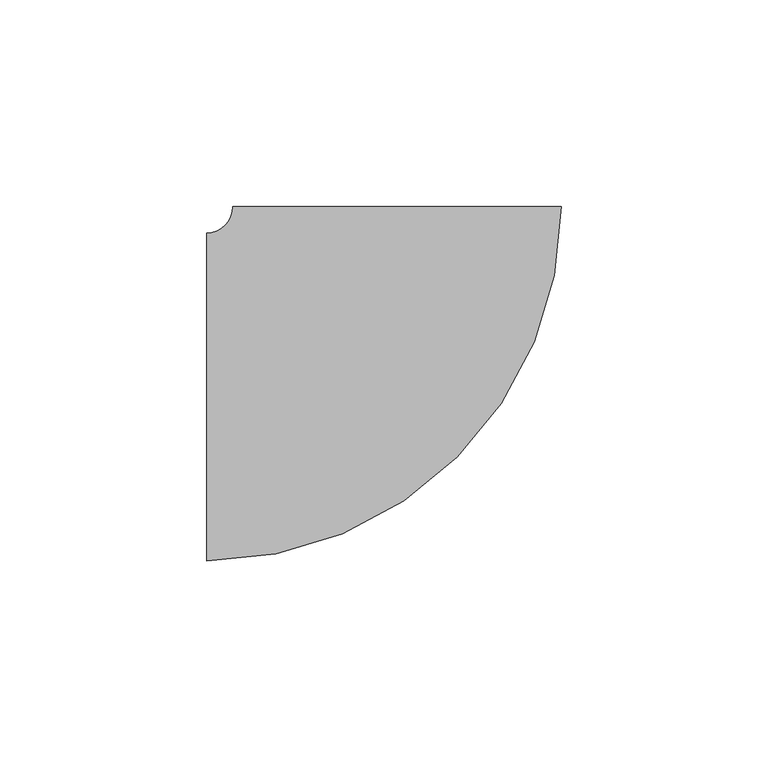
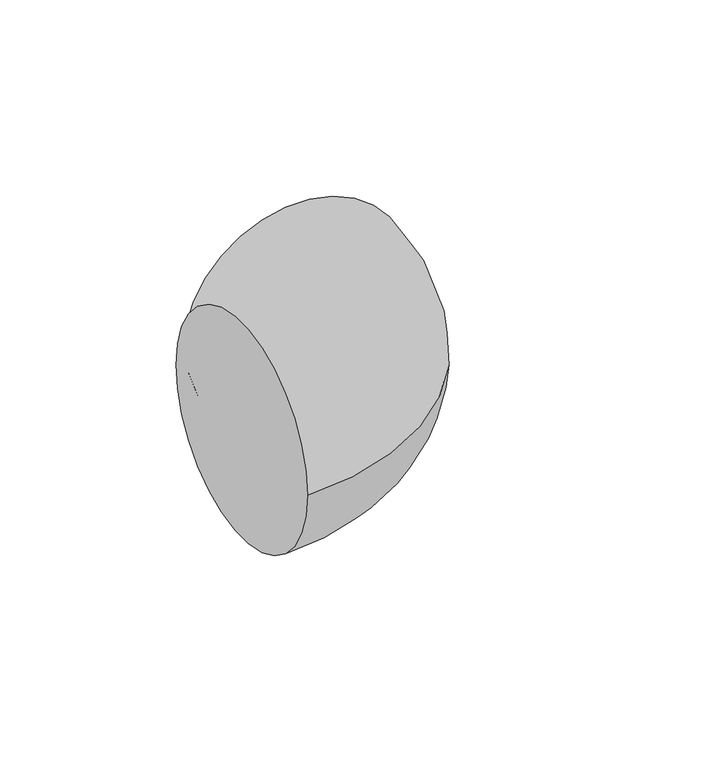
"""IFC4 building model written with IfcOpenShell, lengths in millimetres: pipe fitting geometry, M_Codo - Genérico : Estándar."""

import ifcopenshell
import ifcopenshell.guid

model = None  # the IFC model being written
_history = None  # IfcOwnerHistory: only IFC2X3 demands one
_inside = {}  # id of a spatial element -> (the spatial element, [elements in it])
_under = {}  # id of a project, library or spatial element -> (it, [spatial elements below it])
_declared = {}  # id of a project -> (the project, [libraries it declares])
_typed = {}  # id of a type object -> (the type object, [elements of that type])
_made_of = {}  # id of a material, layer set ... -> (it, [elements and type objects made of it])


def new_model(schema):
    """Start an empty IFC model of exactly this schema.

    Asked for "IFC4X3", IfcOpenShell would pick the latest addendum, in which some entities
    have other attributes; the version numbers below select the first issue.
    IFC2X3 requires an IfcOwnerHistory on every rooted entity: one is made here for all.
    """
    global model, _history
    if schema == "IFC4X3":
        model = ifcopenshell.file(schema_version=(4, 3, 0, 0))
    else:
        model = ifcopenshell.file(schema=schema)
    _inside.clear()
    _under.clear()
    _declared.clear()
    _typed.clear()
    _made_of.clear()
    _history = None
    if model.schema == "IFC2X3":
        org = make("IfcOrganization", Name="unknown")
        user = make(
            "IfcPersonAndOrganization",
            ThePerson=make("IfcPerson", FamilyName="unknown"),
            TheOrganization=org,
        )
        app = make(
            "IfcApplication",
            ApplicationDeveloper=org,
            Version="unknown",
            ApplicationFullName="unknown",
            ApplicationIdentifier="unknown",
        )
        _history = make(
            "IfcOwnerHistory",
            OwningUser=user,
            OwningApplication=app,
            ChangeAction="ADDED",
            CreationDate=0,
        )
    return model


def make(cls, **values):
    """One entity of the class cls with the attributes given. An attribute that is None is left unset."""
    return model.create_entity(
        cls, **{name: value for name, value in values.items() if value is not None}
    )


def rooted(cls, **values):
    """An entity with a GlobalId (a new one), such as an element, a storey or a relation."""
    return make(cls, GlobalId=ifcopenshell.guid.new(), OwnerHistory=_history, **values)


def si_unit(unit_type, name, prefix=None):
    """IfcSIUnit, for example si_unit("LENGTHUNIT", "METRE", prefix="MILLI")."""
    return make("IfcSIUnit", UnitType=unit_type, Prefix=prefix, Name=name)


def assignment(units):
    """IfcUnitAssignment: the units of a project."""
    return None if units is None else make("IfcUnitAssignment", Units=units)


def point(xyz):
    """IfcCartesianPoint."""
    return None if xyz is None else make("IfcCartesianPoint", Coordinates=xyz)


def direction(xyz):
    """IfcDirection."""
    return None if xyz is None else make("IfcDirection", DirectionRatios=xyz)


def frame(location, z_axis=None, x_axis=None):
    """IfcAxis2Placement3D, a coordinate frame: its origin and axes. An axis left out is left unset."""
    return make(
        "IfcAxis2Placement3D",
        Location=point(location),
        Axis=direction(z_axis),
        RefDirection=direction(x_axis),
    )


def origin():
    """The frame at (0, 0, 0) with its axes left unset."""
    return frame((0.0, 0.0, 0.0))


def place(relative_to, where):
    """IfcLocalPlacement: puts the frame where relative to a parent placement (None: the world)."""
    return make(
        "IfcLocalPlacement", PlacementRelTo=relative_to, RelativePlacement=where
    )


def context(
    kind, dimensions, precision=None, world=None, true_north=None, identifier=None
):
    """IfcGeometricRepresentationContext, for example the 3D "Model" context."""
    return make(
        "IfcGeometricRepresentationContext",
        ContextIdentifier=identifier,
        ContextType=kind,
        CoordinateSpaceDimension=dimensions,
        Precision=precision,
        WorldCoordinateSystem=world,
        TrueNorth=true_north,
    )


def project(units=None, contexts=None):
    """IfcProject with its units and contexts."""
    return rooted(
        "IfcProject",
        Name="project",
        RepresentationContexts=contexts,
        UnitsInContext=assignment(units),
    )


def spatial(cls, under=None, at=None, **own):
    """A site, building, storey or space (cls), placed at a placement, below another one or the project."""
    s = rooted(cls, ObjectPlacement=at, **own)
    if under is not None:
        _under.setdefault(under.id(), (under, []))[1].append(s)
    return s


def circle_curve(where, radius):
    """IfcCircle in the frame where."""
    return make("IfcCircle", Position=where, Radius=radius)


def ellipse_curve(where, semi_axis1, semi_axis2):
    """IfcEllipse in the frame where."""
    return make(
        "IfcEllipse", Position=where, SemiAxis1=semi_axis1, SemiAxis2=semi_axis2
    )


def trimmed(basis, trim1, trim2, sense, master):
    """IfcTrimmedCurve: the piece of a basis curve between two trims."""
    return make(
        "IfcTrimmedCurve",
        BasisCurve=basis,
        Trim1=trim1,
        Trim2=trim2,
        SenseAgreement=sense,
        MasterRepresentation=master,
    )


def shape(context_of_items, identifier, shape_type, items):
    """IfcShapeRepresentation: the items that make up one representation, for example the "Body"."""
    return make(
        "IfcShapeRepresentation",
        ContextOfItems=context_of_items,
        RepresentationIdentifier=identifier,
        RepresentationType=shape_type,
        Items=items,
    )


def source(mapping_origin, context_of_items, identifier, shape_type, items):
    """IfcRepresentationMap: a shape defined once, which mapped items show again and again."""
    return make(
        "IfcRepresentationMap",
        MappingOrigin=mapping_origin,
        MappedRepresentation=shape(context_of_items, identifier, shape_type, items),
    )


def transform(
    local_origin,
    x_axis=None,
    y_axis=None,
    z_axis=None,
    scale=None,
    scale2=None,
    scale3=None,
    uniform=True,
):
    """IfcCartesianTransformationOperator3D, or its non-uniform kind. x_axis, y_axis, z_axis: its Axis1, 2, 3."""
    if uniform:
        return make(
            "IfcCartesianTransformationOperator3D",
            Axis1=direction(x_axis),
            Axis2=direction(y_axis),
            LocalOrigin=point(local_origin),
            Scale=scale,
            Axis3=direction(z_axis),
        )
    return make(
        "IfcCartesianTransformationOperator3DnonUniform",
        Axis1=direction(x_axis),
        Axis2=direction(y_axis),
        LocalOrigin=point(local_origin),
        Scale=scale,
        Axis3=direction(z_axis),
        Scale2=scale2,
        Scale3=scale3,
    )


def mapped(mapping_source, mapping_target):
    """IfcMappedItem: shows the shape of a source again, moved by a transform."""
    return make(
        "IfcMappedItem", MappingSource=mapping_source, MappingTarget=mapping_target
    )


def made_of(thing, what):
    """Note that an element or type object is made of a material, layer set ...; save() writes the relation."""
    if what is not None:
        _made_of.setdefault(what.id(), (what, []))[1].append(thing)
    return thing


def element(
    cls,
    number,
    at=None,
    inside=None,
    cuts=None,
    type_object=None,
    material=None,
    context=None,
    identifier="Body",
    shape_type=None,
    held_by="IfcProductDefinitionShape",
    body=None,
    shapes=None,
    **own,
):
    """One element of the class cls, such as IfcWall. Its Tag is "e" and its number.

    at: its placement. inside: the storey or other place that contains it. cuts: it is an
    opening in that element (IfcRelVoidsElement). A single representation is given by context,
    identifier, shape_type and body (its items); several are given by shapes. held_by: the class
    of the entity that holds the representations. save() writes the other relations.
    """
    e = rooted(cls, Tag="e%d" % number, ObjectPlacement=at, **own)
    if body is not None:
        shapes = [shape(context, identifier, shape_type, body)]
    if shapes is not None:
        e.Representation = make(held_by, Representations=shapes)
    if inside is not None:
        _inside.setdefault(inside.id(), (inside, []))[1].append(e)
    if cuts is not None:
        rooted(
            "IfcRelVoidsElement", RelatingBuildingElement=cuts, RelatedOpeningElement=e
        )
    if type_object is not None:
        _typed.setdefault(type_object.id(), (type_object, []))[1].append(e)
    return made_of(e, material)


def aggregate(whole, parts):
    """IfcRelAggregates: a whole, such as a stair, and the parts it consists of."""
    return rooted("IfcRelAggregates", RelatingObject=whole, RelatedObjects=parts)


def save(model, path):
    """Write the relations noted so far, then the file.

    IfcRelAggregates (storeys below a building ...), IfcRelContainedInSpatialStructure (elements
    in a storey), IfcRelDefinesByType, IfcRelAssociatesMaterial and IfcRelDeclares: one each for
    every whole, place, type object, material and project.
    """
    for whole, parts in _under.values():
        aggregate(whole, parts)
    for where, things in _inside.values():
        rooted(
            "IfcRelContainedInSpatialStructure",
            RelatedElements=things,
            RelatingStructure=where,
        )
    for kind, things in _typed.values():
        rooted("IfcRelDefinesByType", RelatedObjects=things, RelatingType=kind)
    for what, things in _made_of.values():
        rooted("IfcRelAssociatesMaterial", RelatedObjects=things, RelatingMaterial=what)
    for by, libraries in _declared.values():
        rooted("IfcRelDeclares", RelatingContext=by, RelatedDefinitions=libraries)
    model.write(path)


def plane_surface(at):
    """IfcPlane: the flat surface through the origin of the frame at, square to its z axis."""
    return make("IfcPlane", Position=at)


def revolved_surface(curve, axis_point, axis_direction):
    """IfcSurfaceOfRevolution: the curve turned about the line through axis_point along axis_direction."""
    return make(
        "IfcSurfaceOfRevolution",
        SweptCurve=make("IfcArbitraryOpenProfileDef", ProfileType="CURVE", Curve=curve),
        AxisPosition=make("IfcAxis1Placement", Location=point(axis_point), Axis=direction(axis_direction)),
    )


def advanced_brep(points, edges, surfaces, faces):
    """IfcAdvancedBrep: a solid bounded by faces that lie on surfaces and meet in shared edges.

    An edge is (start, end): straight between two places in points (the first is 0);
    or (start, end, curve); or (start, end, curve, False) where it runs against its curve.
    A face is (place in surfaces, loops), or (place, loops, False) where it looks against
    its surface's normal. A loop lists edges by number (the first is 1), with a minus sign
    where the edge is run from its end to its start. The first loop is the outer one.
    """
    corners = [point(p) for p in points]
    vertices = [make("IfcVertexPoint", VertexGeometry=c) for c in corners]
    made = []
    for start, end, *more in edges:
        made.append(
            make(
                "IfcEdgeCurve",
                EdgeStart=vertices[start],
                EdgeEnd=vertices[end],
                EdgeGeometry=more[0] if more else make("IfcPolyline", Points=[corners[start], corners[end]]),
                SameSense=more[1] if len(more) > 1 else True,
            )
        )
    hull = []
    for where, loops, *sense in faces:
        bounds = []
        for j, loop in enumerate(loops):
            ring = [make("IfcOrientedEdge", EdgeElement=made[abs(k) - 1], Orientation=k > 0) for k in loop]
            bounds.append(
                make(
                    "IfcFaceOuterBound" if j == 0 else "IfcFaceBound",
                    Bound=make("IfcEdgeLoop", EdgeList=ring),
                    Orientation=True,
                )
            )
        hull.append(make("IfcAdvancedFace", Bounds=bounds, FaceSurface=surfaces[where], SameSense=sense[0] if sense else True))
    return make("IfcAdvancedBrep", Outer=make("IfcClosedShell", CfsFaces=hull))


def pipe_fitting_3f4206e3(model_context):
    return source(origin(), model_context, "Body", "AdvancedBrep", [
        advanced_brep(
        [(-46.0375, -39.6875, 0.0), (-46.0375, 39.6875, 0.0), (39.6875, 46.0375, 0.0), (-39.6875, 46.0375, 0.0)],
        [
            (0, 1, circle_curve(frame((-46.0375, 0.0, 0.0), z_axis=(-1.0, 0.0, 0.0), x_axis=(0.0, 1.0, 0.0)), 39.6875)),
            (1, 0, circle_curve(frame((-46.0375, 0.0, 0.0), z_axis=(-1.0, 0.0, 0.0), x_axis=(0.0, 1.0, 0.0)), 39.6875)),
            (2, 3, circle_curve(frame((0.0, 46.0375, 0.0), z_axis=(0.0, 1.0, 0.0), x_axis=(-1.0, 0.0, 0.0)), 39.6875)),
            (3, 2, circle_curve(frame((0.0, 46.0375, 0.0), z_axis=(0.0, 1.0, 0.0), x_axis=(-1.0, 0.0, 0.0)), 39.6875)),
            (3, 1, circle_curve(frame((-46.0375, 46.0375, 0.0), z_axis=(0.0, 0.0, -1.0), x_axis=(0.0, -1.0, 0.0)), 6.35)),
            (0, 2, circle_curve(frame((-46.0375, 46.0375, 0.0), z_axis=(0.0, 0.0, 1.0), x_axis=(0.0, -1.0, 0.0)), 85.725)),
        ],
        [
            plane_surface(frame((-46.0375, 0.0, 0.0), z_axis=(-1.0, 0.0, 0.0), x_axis=(0.0, 0.0, 1.0))),
            plane_surface(frame((0.0, 46.0375, 0.0), z_axis=(0.0, 1.0, 0.0), x_axis=(0.0, 0.0, 1.0))),
            revolved_surface(trimmed(ellipse_curve(frame((-46.0375, 0.0, 0.0), z_axis=(-1.0, 0.0, 0.0), x_axis=(0.0, 1.0, 0.0)), 39.6875, 39.6875), [point((-46.0375, -39.6875, 0.0))], [point((-46.0375, 39.6875, 0.0))], True, "CARTESIAN"), (-46.0375, 46.0375, 0.0), (0.0, 0.0, 1.0)),
            revolved_surface(trimmed(ellipse_curve(frame((-46.0375, 0.0, 0.0), z_axis=(-1.0, 0.0, 0.0), x_axis=(0.0, 1.0, 0.0)), 39.6875, 39.6875), [point((-46.0375, 39.6875, 0.0))], [point((-46.0375, -39.6875, 0.0))], True, "CARTESIAN"), (-46.0375, 46.0375, 0.0), (0.0, 0.0, 1.0)),
        ],
        [
            (0, [[1, 2]]),
            (1, [[3, 4]]),
            (2, [[5, -1, 6, -4]]),
            (3, [[-6, -2, -5, -3]]),
        ],
    ),
    ])


if __name__ == "__main__":
    model = new_model("IFC4")
    model_context = context("Model", 3, world=origin())
    ifc_project = project(units=[si_unit("LENGTHUNIT", "METRE", prefix="MILLI")], contexts=[model_context])
    site = spatial("IfcSite", under=ifc_project)
    building = spatial("IfcBuilding", under=site)
    placement = place(None, origin())
    pipe_fitting_shape = pipe_fitting_3f4206e3(model_context)
    element("IfcPipeFitting", 1, ObjectType="M_Codo - Genérico : Estándar", at=placement, inside=building, context=model_context, shape_type="MappedRepresentation", body=[
        mapped(pipe_fitting_shape, transform((0.0, 0.0, 0.0), x_axis=(1.0, 0.0, 0.0), y_axis=(0.0, 1.0, 0.0), z_axis=(0.0, 0.0, 1.0))),
    ])
    save(model, "model.ifc")
